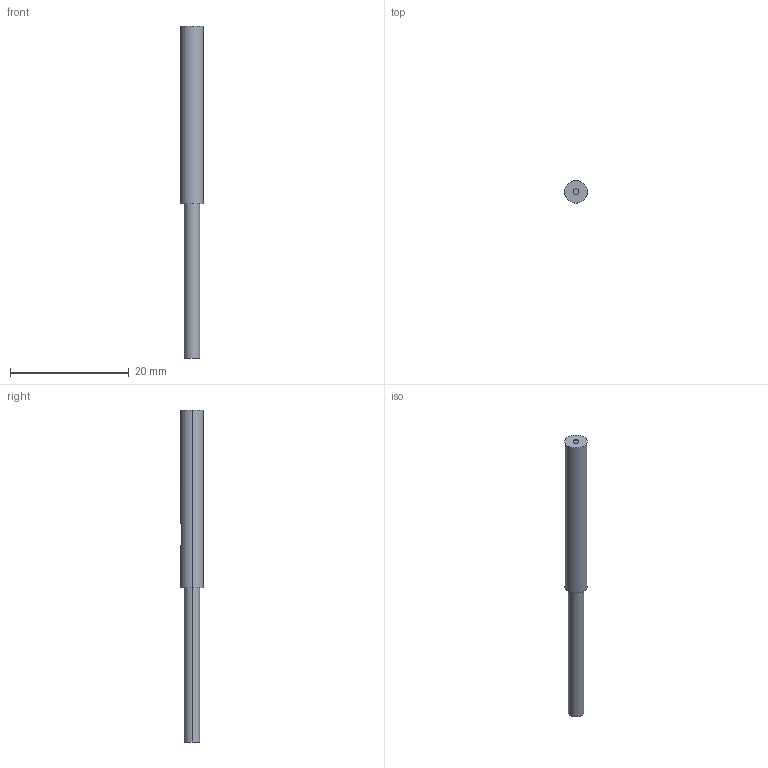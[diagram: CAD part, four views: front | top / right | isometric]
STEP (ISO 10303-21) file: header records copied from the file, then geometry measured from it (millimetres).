
FILE_DESCRIPTION (( 'STEP AP203' ), '1' );
FILE_NAME ('GX-3S.STEP', '2005-09-07T01:16:42', ( '' ), ( '' ), 'SwSTEP 2.0', 'SolidWorks 2004073', '' );
FILE_SCHEMA (( 'CONFIG_CONTROL_DESIGN' ));
Length unit declared in the file: millimetre
Products named in the file (1): GX-3S
Bounding box: 3.8 x 3.8 x 56 mm (x, y, z)
Volume: 477.6 mm3; surface area: 593.7 mm2
Topology: 1 solids, 1 shells, 13 faces, 24 edges, 16 vertices
Faces by surface type: cylinder 8, plane 5
Entity records: 427 total; most frequent: CARTESIAN_POINT 76, DIRECTION 64, ORIENTED_EDGE 48, AXIS2_PLACEMENT_3D 28, EDGE_CURVE 24, EDGE_LOOP 16, VERTEX_POINT 16, CIRCLE 14
